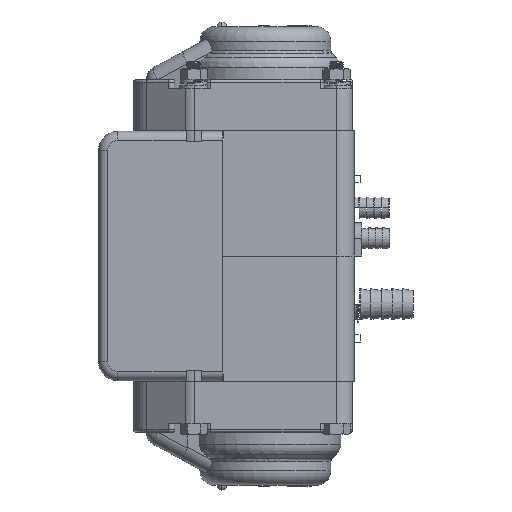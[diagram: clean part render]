
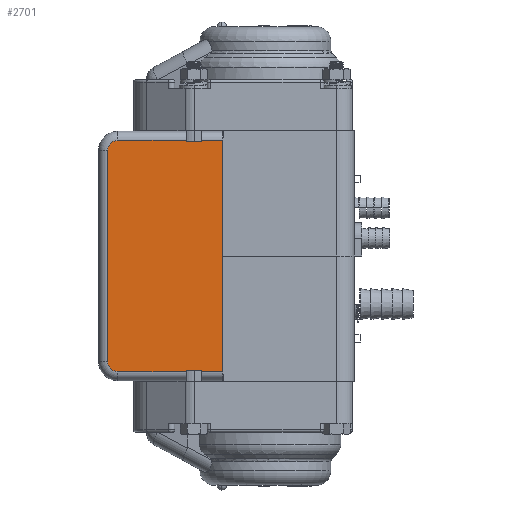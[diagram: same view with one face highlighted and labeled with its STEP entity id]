
A CAD part, left-side view. The second image highlights one B-rep face of the part: STEP entity #2701.
In plain terms, the highlighted planar face has unit normal (-1, 0, 0).
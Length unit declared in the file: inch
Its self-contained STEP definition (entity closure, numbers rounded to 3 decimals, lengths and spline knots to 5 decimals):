
#1787=DIRECTION('',(0.,0.,1.));
#1788=VECTOR('',#1787,3.05);
#1789=CARTESIAN_POINT('',(-1.26,0.56,-3.175));
#1790=LINE('',#1789,#1788);
#1851=DIRECTION('',(0.,-1.,0.));
#1852=VECTOR('',#1851,0.203);
#1853=CARTESIAN_POINT('',(-1.26,1.0415,-0.14));
#1854=LINE('',#1853,#1852);
#1855=DIRECTION('',(0.,0.,1.));
#1856=VECTOR('',#1855,0.015);
#1857=CARTESIAN_POINT('',(-1.26,0.8385,-0.14));
#1858=LINE('',#1857,#1856);
#1859=DIRECTION('',(0.,0.,1.));
#1860=VECTOR('',#1859,0.015);
#1861=CARTESIAN_POINT('',(-1.26,0.8385,-3.175));
#1862=LINE('',#1861,#1860);
#1863=DIRECTION('',(0.,1.,0.));
#1864=VECTOR('',#1863,0.203);
#1865=CARTESIAN_POINT('',(-1.26,0.8385,-3.16));
#1866=LINE('',#1865,#1864);
#1867=DIRECTION('',(0.,0.,-1.));
#1868=VECTOR('',#1867,0.015);
#1869=CARTESIAN_POINT('',(-1.26,1.0415,-3.16));
#1870=LINE('',#1869,#1868);
#1871=DIRECTION('',(0.,0.,-1.));
#1872=VECTOR('',#1871,0.015);
#1873=CARTESIAN_POINT('',(-1.26,1.0415,-0.125));
#1874=LINE('',#1873,#1872);
#2086=DIRECTION('',(0.,1.,0.));
#2087=VECTOR('',#2086,0.2785);
#2088=CARTESIAN_POINT('',(-1.26,0.56,-3.175));
#2089=LINE('',#2088,#2087);
#2108=DIRECTION('',(0.,1.,0.));
#2109=VECTOR('',#2108,0.9085);
#2110=CARTESIAN_POINT('',(-1.26,1.0415,-3.175));
#2111=LINE('',#2110,#2109);
#2117=CARTESIAN_POINT('',(-1.26,1.95,-3.045));
#2118=DIRECTION('',(1.,0.,0.));
#2119=DIRECTION('',(0.,0.,-1.));
#2120=AXIS2_PLACEMENT_3D('',#2117,#2118,#2119);
#2131=DIRECTION('',(0.,0.,1.));
#2132=VECTOR('',#2131,2.79);
#2133=CARTESIAN_POINT('',(-1.26,2.08,-3.045));
#2134=LINE('',#2133,#2132);
#2145=CARTESIAN_POINT('',(-1.26,1.95,-0.255));
#2146=DIRECTION('',(1.,0.,0.));
#2147=DIRECTION('',(0.,1.,0.));
#2148=AXIS2_PLACEMENT_3D('',#2145,#2146,#2147);
#2169=DIRECTION('',(0.,-1.,0.));
#2170=VECTOR('',#2169,0.2785);
#2171=CARTESIAN_POINT('',(-1.26,0.8385,-0.125));
#2172=LINE('',#2171,#2170);
#2178=DIRECTION('',(0.,-1.,0.));
#2179=VECTOR('',#2178,0.9085);
#2180=CARTESIAN_POINT('',(-1.26,1.95,-0.125));
#2181=LINE('',#2180,#2179);
#2387=CARTESIAN_POINT('',(-1.26,0.56,-3.175));
#2389=VERTEX_POINT('',#2387);
#2395=CARTESIAN_POINT('',(-1.26,1.95,-3.175));
#2396=CARTESIAN_POINT('',(-1.26,2.08,-3.045));
#2397=VERTEX_POINT('',#2395);
#2398=VERTEX_POINT('',#2396);
#2401=CARTESIAN_POINT('',(-1.26,2.08,-0.255));
#2402=VERTEX_POINT('',#2401);
#2405=CARTESIAN_POINT('',(-1.26,1.95,-0.125));
#2406=VERTEX_POINT('',#2405);
#2408=CARTESIAN_POINT('',(-1.26,0.56,-0.125));
#2410=VERTEX_POINT('',#2408);
#2419=CARTESIAN_POINT('',(-1.26,0.8385,-3.16));
#2420=CARTESIAN_POINT('',(-1.26,1.0415,-3.16));
#2421=VERTEX_POINT('',#2419);
#2422=VERTEX_POINT('',#2420);
#2423=CARTESIAN_POINT('',(-1.26,0.8385,-3.175));
#2424=VERTEX_POINT('',#2423);
#2425=CARTESIAN_POINT('',(-1.26,1.0415,-3.175));
#2426=VERTEX_POINT('',#2425);
#2447=CARTESIAN_POINT('',(-1.26,0.8385,-0.14));
#2448=CARTESIAN_POINT('',(-1.26,1.0415,-0.14));
#2449=VERTEX_POINT('',#2447);
#2450=VERTEX_POINT('',#2448);
#2451=CARTESIAN_POINT('',(-1.26,0.8385,-0.125));
#2452=VERTEX_POINT('',#2451);
#2453=CARTESIAN_POINT('',(-1.26,1.0415,-0.125));
#2454=VERTEX_POINT('',#2453);
#2667=CARTESIAN_POINT('',(-1.26,2.2,-3.295));
#2668=DIRECTION('',(-1.,0.,0.));
#2669=DIRECTION('',(0.,-1.,0.));
#2670=AXIS2_PLACEMENT_3D('',#2667,#2668,#2669);
#2671=PLANE('',#2670);
#2673=ORIENTED_EDGE('',*,*,#2672,.T.);
#2675=ORIENTED_EDGE('',*,*,#2674,.T.);
#2677=ORIENTED_EDGE('',*,*,#2676,.T.);
#2678=ORIENTED_EDGE('',*,*,#2571,.F.);
#2680=ORIENTED_EDGE('',*,*,#2679,.T.);
#2682=ORIENTED_EDGE('',*,*,#2681,.T.);
#2684=ORIENTED_EDGE('',*,*,#2683,.T.);
#2686=ORIENTED_EDGE('',*,*,#2685,.T.);
#2688=ORIENTED_EDGE('',*,*,#2687,.T.);
#2690=ORIENTED_EDGE('',*,*,#2689,.T.);
#2692=ORIENTED_EDGE('',*,*,#2691,.T.);
#2694=ORIENTED_EDGE('',*,*,#2693,.T.);
#2696=ORIENTED_EDGE('',*,*,#2695,.T.);
#2698=ORIENTED_EDGE('',*,*,#2697,.T.);
#2699=EDGE_LOOP('',(#2673,#2675,#2677,#2678,#2680,#2682,#2684,#2686,#2688,#2690,
#2692,#2694,#2696,#2698));
#2700=FACE_OUTER_BOUND('',#2699,.F.);
#2701=ADVANCED_FACE('',(#2700),#2671,.T.);
#2121=CIRCLE('',#2120,0.13);
#2149=CIRCLE('',#2148,0.13);
#2571=EDGE_CURVE('',#2389,#2410,#1790,.T.);
#2672=EDGE_CURVE('',#2450,#2449,#1854,.T.);
#2674=EDGE_CURVE('',#2449,#2452,#1858,.T.);
#2676=EDGE_CURVE('',#2452,#2410,#2172,.T.);
#2679=EDGE_CURVE('',#2389,#2424,#2089,.T.);
#2681=EDGE_CURVE('',#2424,#2421,#1862,.T.);
#2683=EDGE_CURVE('',#2421,#2422,#1866,.T.);
#2685=EDGE_CURVE('',#2422,#2426,#1870,.T.);
#2687=EDGE_CURVE('',#2426,#2397,#2111,.T.);
#2689=EDGE_CURVE('',#2397,#2398,#2121,.T.);
#2691=EDGE_CURVE('',#2398,#2402,#2134,.T.);
#2693=EDGE_CURVE('',#2402,#2406,#2149,.T.);
#2695=EDGE_CURVE('',#2406,#2454,#2181,.T.);
#2697=EDGE_CURVE('',#2454,#2450,#1874,.T.);
